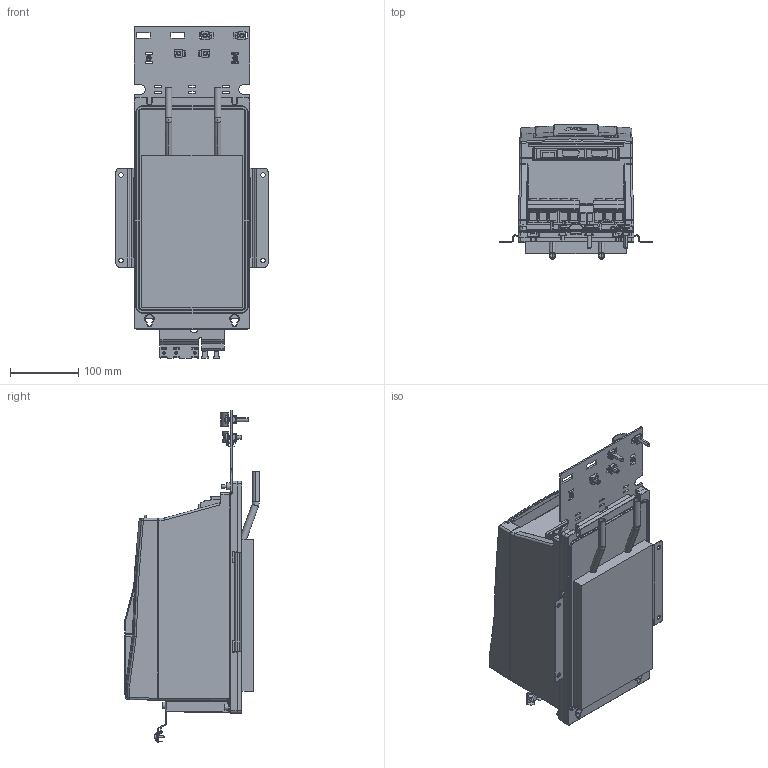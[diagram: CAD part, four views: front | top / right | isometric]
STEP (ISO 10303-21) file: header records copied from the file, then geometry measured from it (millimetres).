
FILE_DESCRIPTION (( 'STEP AP214' ), '1' );
FILE_NAME ('F6-3 TW5-P151.STEP', '2022-05-25T10:06:11', ( '' ), ( '' ), 'SwSTEP 2.0', 'SolidWorks 2019', '' );
FILE_SCHEMA (( 'AUTOMOTIVE_DESIGN' ));
Length unit declared in the file: millimetre
Products named in the file (13): 10047114_000_Kundenmodell; 10040482_000_Kundenmodell; F6-3 TW5-P151; 10061030_000_Kundenmodell; Kundenmodell^10068340_000; 10068340_000_Leistungsteil TW5 (Kundenmodell); 10059764_000_Blindabdeckung (Kundenmodell); Kundenmodell^10040482_000; Kundenmodell^10061030_000; Kundenmodell^10059764_000; 10051076_000_Kundenmodell; Kundenmodell^10051076_000_Kundenmodell mit Geberbuchsen; Kundenmodell^10047114_000
Assembly tree (12 placements, depth 4):
  F6-3 TW5-P151
    10068340_000_Leistungsteil TW5 (Kundenmodell)
      Kundenmodell^10068340_000
    10040482_000_Kundenmodell
      Kundenmodell^10040482_000
    10051076_000_Kundenmodell
      10059764_000_Blindabdeckung (Kundenmodell)
        Kundenmodell^10059764_000
      Kundenmodell^10051076_000_Kundenmodell mit Geberbuchsen
    10047114_000_Kundenmodell
      Kundenmodell^10047114_000
    10061030_000_Kundenmodell
      Kundenmodell^10061030_000
Bounding box: 223 x 197.4 x 486.8 mm (x, y, z)
Volume: 8055780.8 mm3; surface area: 656420.5 mm2
Topology: 16 solids, 23 shells, 3325 faces, 8775 edges, 5544 vertices
Faces by surface type: plane 1523, cylinder 1127, bspline 373, torus 123, cone 121, sphere 58
Entity records: 116534 total; most frequent: CARTESIAN_POINT 32528, ORIENTED_EDGE 17422, DIRECTION 15790, EDGE_CURVE 8711, VERTEX_POINT 5543, AXIS2_PLACEMENT_3D 5473, LINE 4844, VECTOR 4844
